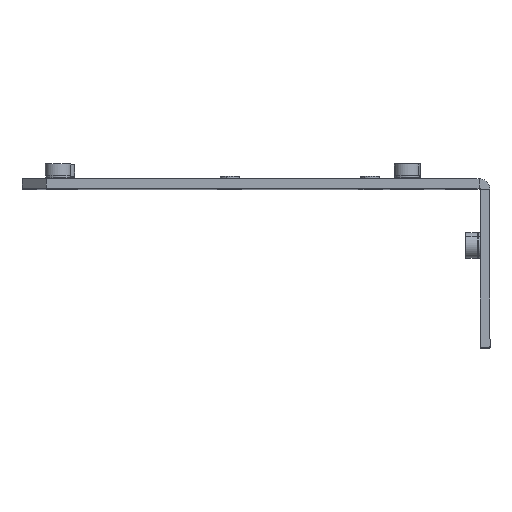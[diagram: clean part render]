
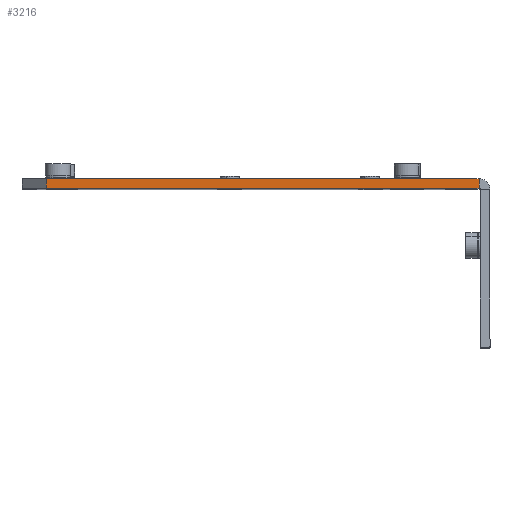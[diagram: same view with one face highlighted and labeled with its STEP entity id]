
A CAD part, top view. The second image highlights one B-rep face of the part: STEP entity #3216.
In plain terms, the highlighted planar face has unit normal (0, 0, 1) as drawn and (-1, 0, 0) by its records, which use the part's own axes.
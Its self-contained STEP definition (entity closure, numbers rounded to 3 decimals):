
#37 = VERTEX_POINT ( 'NONE', #957 ) ;
#205 = EDGE_CURVE ( 'NONE', #2672, #37, #1144, .T. ) ;
#260 = VERTEX_POINT ( 'NONE', #1575 ) ;
#279 = CARTESIAN_POINT ( 'NONE',  ( 0., 0., 8.292 ) ) ;
#446 = ORIENTED_EDGE ( 'NONE', *, *, #205, .T. ) ;
#448 = EDGE_CURVE ( 'NONE', #1785, #260, #2642, .T. ) ;
#566 = LINE ( 'NONE', #279, #2084 ) ;
#629 = CARTESIAN_POINT ( 'NONE',  ( 0., 1.6, -62.508 ) ) ;
#815 = CARTESIAN_POINT ( 'NONE',  ( 0., 1.6, 0. ) ) ;
#877 = CARTESIAN_POINT ( 'NONE',  ( 0., 1.6, 0. ) ) ;
#957 = CARTESIAN_POINT ( 'NONE',  ( 0., 0., 8.292 ) ) ;
#1094 = ORIENTED_EDGE ( 'NONE', *, *, #448, .F. ) ;
#1144 = LINE ( 'NONE', #3530, #2681 ) ;
#1347 = EDGE_LOOP ( 'NONE', ( #1094, #2894, #446, #3130 ) ) ;
#1480 = PLANE ( 'NONE',  #1668 ) ;
#1575 = CARTESIAN_POINT ( 'NONE',  ( 0., 1.6, 8.292 ) ) ;
#1581 = EDGE_CURVE ( 'NONE', #1785, #2672, #2795, .T. ) ;
#1668 = AXIS2_PLACEMENT_3D ( 'NONE', #815, #2360, #2915 ) ;
#1785 = VERTEX_POINT ( 'NONE', #3529 ) ;
#1865 = VECTOR ( 'NONE', #3317, 1000. ) ;
#2051 = DIRECTION ( 'NONE',  ( 0., 0., 1. ) ) ;
#2061 = CARTESIAN_POINT ( 'NONE',  ( 0., 0., -62.508 ) ) ;
#2084 = VECTOR ( 'NONE', #3018, 1000. ) ;
#2360 = DIRECTION ( 'NONE',  ( 1., 0., 0. ) ) ;
#2642 = LINE ( 'NONE', #877, #3005 ) ;
#2672 = VERTEX_POINT ( 'NONE', #2061 ) ;
#2681 = VECTOR ( 'NONE', #3268, 1000. ) ;
#2768 = FACE_OUTER_BOUND ( 'NONE', #1347, .T. ) ;
#2795 = LINE ( 'NONE', #629, #1865 ) ;
#2894 = ORIENTED_EDGE ( 'NONE', *, *, #1581, .T. ) ;
#2915 = DIRECTION ( 'NONE',  ( 0., 0., 1. ) ) ;
#3005 = VECTOR ( 'NONE', #2051, 1000. ) ;
#3018 = DIRECTION ( 'NONE',  ( 0., 1., 0. ) ) ;
#3130 = ORIENTED_EDGE ( 'NONE', *, *, #3378, .T. ) ;
#3216 = ADVANCED_FACE ( 'NONE', ( #2768 ), #1480, .F. ) ;
#3268 = DIRECTION ( 'NONE',  ( 0., 0., 1. ) ) ;
#3317 = DIRECTION ( 'NONE',  ( 0., -1., 0. ) ) ;
#3378 = EDGE_CURVE ( 'NONE', #37, #260, #566, .T. ) ;
#3529 = CARTESIAN_POINT ( 'NONE',  ( 0., 1.6, -62.508 ) ) ;
#3530 = CARTESIAN_POINT ( 'NONE',  ( 0., 0., 0. ) ) ;
